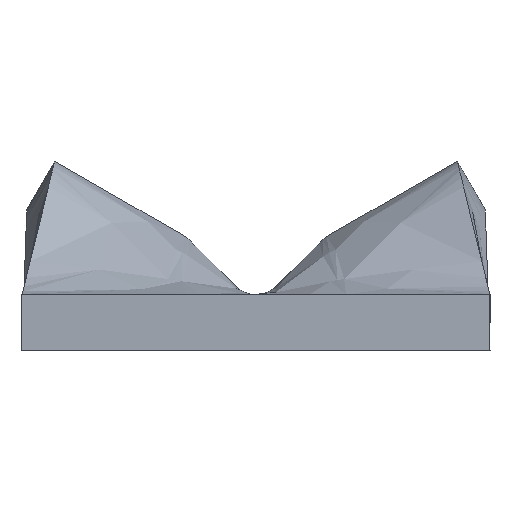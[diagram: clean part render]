
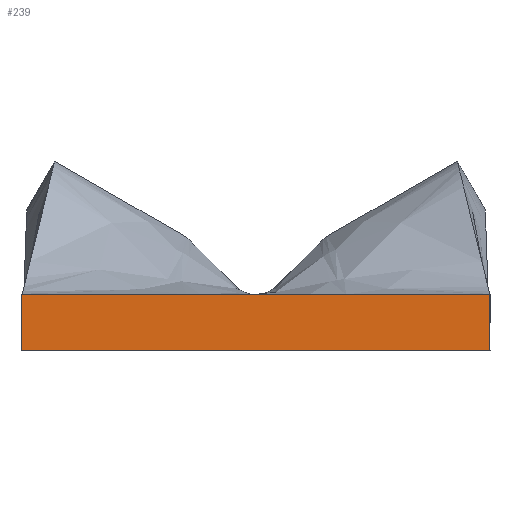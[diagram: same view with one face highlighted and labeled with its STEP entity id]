
A CAD part, left-side view. The second image highlights one B-rep face of the part: STEP entity #239.
In plain terms, the highlighted planar face has unit normal (-1, 0, 0).
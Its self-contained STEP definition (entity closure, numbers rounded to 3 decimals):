
#239 = ADVANCED_FACE ( 'NONE', ( #6894 ), #13059, .F. ) ;
#507 = LINE ( 'NONE', #2297, #10951 ) ;
#548 = VERTEX_POINT ( 'NONE', #4411 ) ;
#1036 = CARTESIAN_POINT ( 'NONE',  ( -14., -12.5, 3. ) ) ;
#1292 = LINE ( 'NONE', #10443, #5416 ) ;
#1810 = ORIENTED_EDGE ( 'NONE', *, *, #11110, .F. ) ;
#2109 = CARTESIAN_POINT ( 'NONE',  ( -14., 12.5, 0. ) ) ;
#2297 = CARTESIAN_POINT ( 'NONE',  ( -14., 12.5, 3. ) ) ;
#3482 = VECTOR ( 'NONE', #12175, 1000. ) ;
#4048 = CARTESIAN_POINT ( 'NONE',  ( -14., 12.5, 3. ) ) ;
#4370 = VERTEX_POINT ( 'NONE', #2109 ) ;
#4411 = CARTESIAN_POINT ( 'NONE',  ( -14., -12.5, 0. ) ) ;
#4563 = CARTESIAN_POINT ( 'NONE',  ( -14., -12.5, 3. ) ) ;
#5018 = CARTESIAN_POINT ( 'NONE',  ( -14., 12.5, 3. ) ) ;
#5264 = VERTEX_POINT ( 'NONE', #9819 ) ;
#5416 = VECTOR ( 'NONE', #7411, 1000. ) ;
#5655 = EDGE_CURVE ( 'NONE', #6799, #548, #8132, .T. ) ;
#5989 = DIRECTION ( 'NONE',  ( 0., 1., 0. ) ) ;
#6586 = DIRECTION ( 'NONE',  ( 0., 0., -1. ) ) ;
#6799 = VERTEX_POINT ( 'NONE', #1036 ) ;
#6894 = FACE_OUTER_BOUND ( 'NONE', #9946, .T. ) ;
#7261 = AXIS2_PLACEMENT_3D ( 'NONE', #5018, #12002, #5989 ) ;
#7411 = DIRECTION ( 'NONE',  ( 0., -1., 0. ) ) ;
#8132 = LINE ( 'NONE', #4563, #10210 ) ;
#8372 = EDGE_CURVE ( 'NONE', #4370, #548, #1292, .T. ) ;
#9754 = EDGE_CURVE ( 'NONE', #5264, #4370, #11525, .T. ) ;
#9819 = CARTESIAN_POINT ( 'NONE',  ( -14., 12.5, 3. ) ) ;
#9946 = EDGE_LOOP ( 'NONE', ( #10885, #12194, #1810, #11982 ) ) ;
#10210 = VECTOR ( 'NONE', #6586, 1000. ) ;
#10443 = CARTESIAN_POINT ( 'NONE',  ( -14., 12.5, 0. ) ) ;
#10885 = ORIENTED_EDGE ( 'NONE', *, *, #8372, .T. ) ;
#10951 = VECTOR ( 'NONE', #11275, 1000. ) ;
#11110 = EDGE_CURVE ( 'NONE', #5264, #6799, #507, .T. ) ;
#11275 = DIRECTION ( 'NONE',  ( 0., -1., 0. ) ) ;
#11525 = LINE ( 'NONE', #4048, #3482 ) ;
#11982 = ORIENTED_EDGE ( 'NONE', *, *, #9754, .T. ) ;
#12002 = DIRECTION ( 'NONE',  ( 1., 0., 0. ) ) ;
#12175 = DIRECTION ( 'NONE',  ( 0., 0., -1. ) ) ;
#12194 = ORIENTED_EDGE ( 'NONE', *, *, #5655, .F. ) ;
#13059 = PLANE ( 'NONE',  #7261 ) ;
